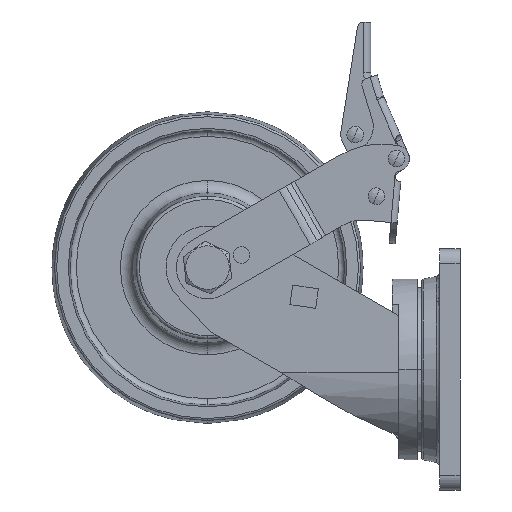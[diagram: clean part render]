
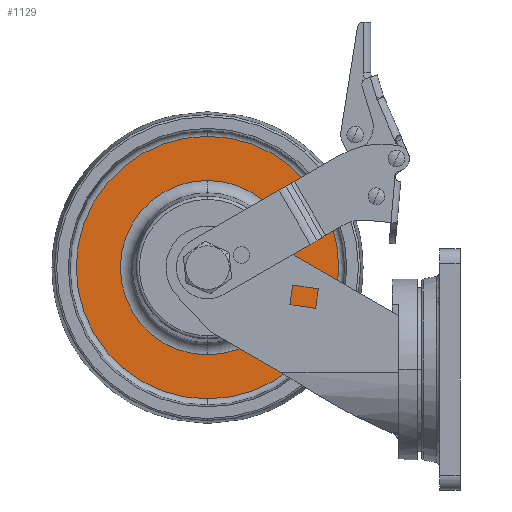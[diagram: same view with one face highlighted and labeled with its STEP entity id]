
A CAD part, left-side view. The second image highlights one B-rep face of the part: STEP entity #1129.
In plain terms, the highlighted planar face has unit normal (-1, 0, 0) as drawn and (0, 0, 1) by its records, which use the part's own axes.
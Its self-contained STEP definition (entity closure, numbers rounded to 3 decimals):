
#448=CARTESIAN_POINT('',(0.,0.,4.));
#449=DIRECTION('',(0.,0.,-1.));
#450=DIRECTION('',(-1.,0.,0.));
#451=AXIS2_PLACEMENT_3D('',#448,#449,#450);
#453=CARTESIAN_POINT('',(0.,0.,4.));
#454=DIRECTION('',(0.,0.,-1.));
#455=DIRECTION('',(1.,0.,0.));
#456=AXIS2_PLACEMENT_3D('',#453,#454,#455);
#458=CARTESIAN_POINT('',(0.,0.,4.));
#459=DIRECTION('',(0.,0.,1.));
#460=DIRECTION('',(1.,0.,0.));
#461=AXIS2_PLACEMENT_3D('',#458,#459,#460);
#463=CARTESIAN_POINT('',(0.,0.,4.));
#464=DIRECTION('',(0.,0.,1.));
#465=DIRECTION('',(-1.,0.,0.));
#466=AXIS2_PLACEMENT_3D('',#463,#464,#465);
#650=CARTESIAN_POINT('',(63.158,0.,4.));
#651=CARTESIAN_POINT('',(-63.158,0.,4.));
#652=VERTEX_POINT('',#650);
#653=VERTEX_POINT('',#651);
#654=CARTESIAN_POINT('',(41.951,0.,4.));
#655=CARTESIAN_POINT('',(-41.951,0.,4.));
#656=VERTEX_POINT('',#654);
#657=VERTEX_POINT('',#655);
#1113=CARTESIAN_POINT('',(0.,41.951,4.));
#1114=DIRECTION('',(0.,0.,-1.));
#1115=DIRECTION('',(-1.,0.,0.));
#1116=AXIS2_PLACEMENT_3D('',#1113,#1114,#1115);
#1117=PLANE('',#1116);
#1119=ORIENTED_EDGE('',*,*,#1118,.T.);
#1120=ORIENTED_EDGE('',*,*,#1103,.T.);
#1121=EDGE_LOOP('',(#1119,#1120));
#1122=FACE_OUTER_BOUND('',#1121,.F.);
#1124=ORIENTED_EDGE('',*,*,#1123,.T.);
#1126=ORIENTED_EDGE('',*,*,#1125,.T.);
#1127=EDGE_LOOP('',(#1124,#1126));
#1128=FACE_BOUND('',#1127,.F.);
#452=CIRCLE('',#451,63.158);
#457=CIRCLE('',#456,63.158);
#462=CIRCLE('',#461,41.951);
#467=CIRCLE('',#466,41.951);
#1103=EDGE_CURVE('',#652,#653,#457,.T.);
#1118=EDGE_CURVE('',#653,#652,#452,.T.);
#1123=EDGE_CURVE('',#656,#657,#462,.T.);
#1125=EDGE_CURVE('',#657,#656,#467,.T.);
#1129=ADVANCED_FACE('',(#1122,#1128),#1117,.F.);
